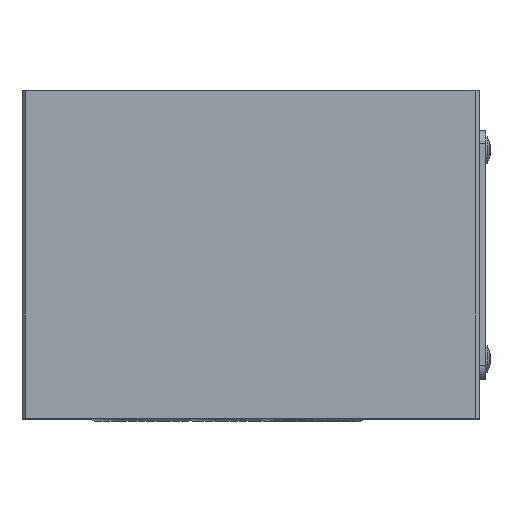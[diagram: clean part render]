
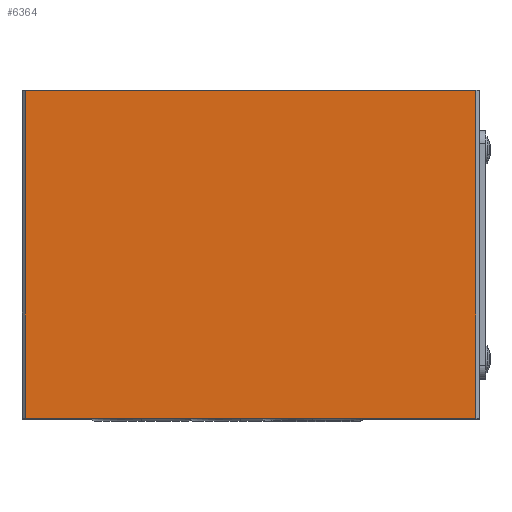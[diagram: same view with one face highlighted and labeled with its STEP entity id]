
A CAD part, top view. The second image highlights one B-rep face of the part: STEP entity #6364.
In plain terms, the highlighted planar face has unit normal (0, 0, 1) as drawn and (0, 0, -1) by its records, which use the part's own axes.
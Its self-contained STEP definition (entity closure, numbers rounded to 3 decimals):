
#3126 = VECTOR ( 'NONE', #80123, 1000. ) ;
#6364 = ADVANCED_FACE ( 'NONE', ( #103131 ), #68846, .F. ) ;
#6845 = EDGE_CURVE ( 'NONE', #38082, #114581, #89163, .T. ) ;
#11466 = DIRECTION ( 'NONE',  ( 0., 1., 0. ) ) ;
#21254 = CARTESIAN_POINT ( 'NONE',  ( 34.5, 25.1, -55. ) ) ;
#31229 = CARTESIAN_POINT ( 'NONE',  ( 34.5, -25.1, -55. ) ) ;
#38082 = VERTEX_POINT ( 'NONE', #105288 ) ;
#38664 = CARTESIAN_POINT ( 'NONE',  ( -34.5, -25.1, -55. ) ) ;
#40005 = AXIS2_PLACEMENT_3D ( 'NONE', #67716, #104088, #41869 ) ;
#41869 = DIRECTION ( 'NONE',  ( 1., 0., 0. ) ) ;
#41997 = EDGE_CURVE ( 'NONE', #45199, #114581, #111324, .T. ) ;
#45199 = VERTEX_POINT ( 'NONE', #21254 ) ;
#55755 = LINE ( 'NONE', #38664, #98588 ) ;
#62700 = EDGE_LOOP ( 'NONE', ( #77801, #91141, #102112, #105759 ) ) ;
#65518 = EDGE_CURVE ( 'NONE', #45199, #78672, #93221, .T. ) ;
#66378 = DIRECTION ( 'NONE',  ( 0., -1., 0. ) ) ;
#67184 = DIRECTION ( 'NONE',  ( 1., 0., 0. ) ) ;
#67716 = CARTESIAN_POINT ( 'NONE',  ( -35., -25.1, -55. ) ) ;
#68846 = PLANE ( 'NONE',  #40005 ) ;
#76684 = VECTOR ( 'NONE', #66378, 1000. ) ;
#77381 = CARTESIAN_POINT ( 'NONE',  ( -34.5, 25.1, -55. ) ) ;
#77801 = ORIENTED_EDGE ( 'NONE', *, *, #6845, .F. ) ;
#78672 = VERTEX_POINT ( 'NONE', #77381 ) ;
#80123 = DIRECTION ( 'NONE',  ( -1., 0., 0. ) ) ;
#80403 = EDGE_CURVE ( 'NONE', #38082, #78672, #55755, .T. ) ;
#82983 = CARTESIAN_POINT ( 'NONE',  ( 34.5, -25.1, -55. ) ) ;
#83569 = VECTOR ( 'NONE', #67184, 1000. ) ;
#89163 = LINE ( 'NONE', #90871, #83569 ) ;
#90871 = CARTESIAN_POINT ( 'NONE',  ( -35., -25.1, -55. ) ) ;
#91141 = ORIENTED_EDGE ( 'NONE', *, *, #80403, .T. ) ;
#93221 = LINE ( 'NONE', #99057, #3126 ) ;
#98588 = VECTOR ( 'NONE', #11466, 1000. ) ;
#99057 = CARTESIAN_POINT ( 'NONE',  ( -35., 25.1, -55. ) ) ;
#102112 = ORIENTED_EDGE ( 'NONE', *, *, #65518, .F. ) ;
#103131 = FACE_OUTER_BOUND ( 'NONE', #62700, .T. ) ;
#104088 = DIRECTION ( 'NONE',  ( 0., 0., 1. ) ) ;
#105288 = CARTESIAN_POINT ( 'NONE',  ( -34.5, -25.1, -55. ) ) ;
#105759 = ORIENTED_EDGE ( 'NONE', *, *, #41997, .T. ) ;
#111324 = LINE ( 'NONE', #31229, #76684 ) ;
#114581 = VERTEX_POINT ( 'NONE', #82983 ) ;
